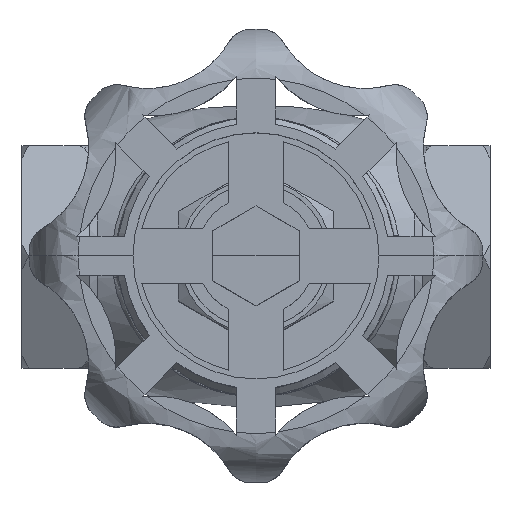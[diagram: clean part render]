
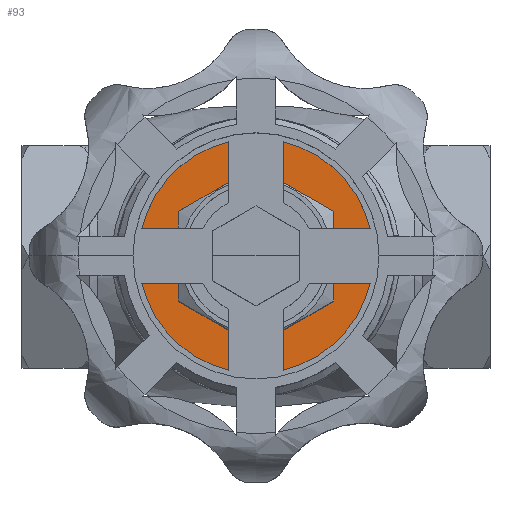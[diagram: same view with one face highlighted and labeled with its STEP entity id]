
A CAD part, top view. The second image highlights one B-rep face of the part: STEP entity #93.
In plain terms, the highlighted planar face has unit normal (0, 0, 1).
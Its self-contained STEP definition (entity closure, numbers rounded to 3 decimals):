
#93=ADVANCED_FACE('',(#809,#810),#808,.T.);
#808=PLANE('',#3105);
#809=FACE_OUTER_BOUND('',#3106,.T.);
#810=FACE_BOUND('',#3107,.T.);
#3102=CARTESIAN_POINT('',(-22.732,-36.344,33.007));
#3103=DIRECTION('',(0.,0.,1.));
#3104=DIRECTION('',(1.,0.,0.));
#3105=AXIS2_PLACEMENT_3D('',#3102,#3103,#3104);
#3106=EDGE_LOOP('',(#5753,#5754));
#3107=EDGE_LOOP('',(#5755,#5756,#5757,#5758,#5759,#5760,#5761,#5762,#5763,#5764,#5765,#5766));
#5753=ORIENTED_EDGE('',*,*,#7093,.F.);
#5754=ORIENTED_EDGE('',*,*,#7094,.F.);
#5755=ORIENTED_EDGE('',*,*,#7079,.T.);
#5756=ORIENTED_EDGE('',*,*,#7095,.F.);
#5757=ORIENTED_EDGE('',*,*,#7085,.T.);
#5758=ORIENTED_EDGE('',*,*,#7096,.F.);
#5759=ORIENTED_EDGE('',*,*,#7097,.T.);
#5760=ORIENTED_EDGE('',*,*,#7098,.F.);
#5761=ORIENTED_EDGE('',*,*,#7099,.T.);
#5762=ORIENTED_EDGE('',*,*,#7100,.F.);
#5763=ORIENTED_EDGE('',*,*,#7101,.T.);
#5764=ORIENTED_EDGE('',*,*,#7102,.F.);
#5765=ORIENTED_EDGE('',*,*,#7089,.T.);
#5766=ORIENTED_EDGE('',*,*,#7103,.F.);
#7079=EDGE_CURVE('',#8968,#8960,#8969,.T.);
#7085=EDGE_CURVE('',#8989,#9003,#9010,.T.);
#7089=EDGE_CURVE('',#9017,#9031,#9038,.T.);
#7093=EDGE_CURVE('',#9064,#9065,#9066,.T.);
#7094=EDGE_CURVE('',#9065,#9064,#9072,.T.);
#7095=EDGE_CURVE('',#8989,#8960,#9078,.T.);
#7096=EDGE_CURVE('',#9084,#9003,#9085,.T.);
#7097=EDGE_CURVE('',#9084,#9091,#9092,.T.);
#7098=EDGE_CURVE('',#9098,#9091,#9099,.T.);
#7099=EDGE_CURVE('',#9098,#9105,#9106,.T.);
#7100=EDGE_CURVE('',#9112,#9105,#9113,.T.);
#7101=EDGE_CURVE('',#9112,#9119,#9120,.T.);
#7102=EDGE_CURVE('',#9017,#9119,#9126,.T.);
#7103=EDGE_CURVE('',#8968,#9031,#9132,.T.);
#8960=VERTEX_POINT('',#13415);
#8968=VERTEX_POINT('',#13420);
#8969=CIRCLE('',#13424,12.424);
#8989=VERTEX_POINT('',#13434);
#9003=VERTEX_POINT('',#13443);
#9010=CIRCLE('',#13450,12.424);
#9017=VERTEX_POINT('',#13452);
#9031=VERTEX_POINT('',#13461);
#9038=CIRCLE('',#13468,12.424);
#9064=VERTEX_POINT('',#13487);
#9065=VERTEX_POINT('',#13488);
#9066=CIRCLE('',#13492,17.486);
#9072=CIRCLE('',#13496,17.486);
#9078=LINE('',#13497,#13498);
#9084=VERTEX_POINT('',#13500);
#9085=LINE('',#13501,#13502);
#9091=VERTEX_POINT('',#13504);
#9092=CIRCLE('',#13508,12.424);
#9098=VERTEX_POINT('',#13509);
#9099=LINE('',#13510,#13511);
#9105=VERTEX_POINT('',#13513);
#9106=CIRCLE('',#13517,12.424);
#9112=VERTEX_POINT('',#13518);
#9113=LINE('',#13519,#13520);
#9119=VERTEX_POINT('',#13522);
#9120=CIRCLE('',#13526,12.424);
#9126=LINE('',#13527,#13528);
#9132=LINE('',#13530,#13531);
#13415=CARTESIAN_POINT('',(10.736,-6.253,33.007));
#13420=CARTESIAN_POINT('',(10.783,-6.171,33.007));
#13421=CARTESIAN_POINT('',(0.,0.,33.007));
#13422=DIRECTION('',(0.,0.,-1.));
#13423=DIRECTION('',(1.,0.,0.));
#13424=AXIS2_PLACEMENT_3D('',#13421,#13422,#13423);
#13434=CARTESIAN_POINT('',(0.047,-12.424,33.007));
#13443=CARTESIAN_POINT('',(-0.047,-12.424,33.007));
#13447=CARTESIAN_POINT('',(0.,0.,33.007));
#13448=DIRECTION('',(0.,0.,-1.));
#13449=DIRECTION('',(1.,0.,0.));
#13450=AXIS2_PLACEMENT_3D('',#13447,#13448,#13449);
#13452=CARTESIAN_POINT('',(10.736,6.253,33.007));
#13461=CARTESIAN_POINT('',(10.783,6.171,33.007));
#13465=CARTESIAN_POINT('',(0.,0.,33.007));
#13466=DIRECTION('',(0.,0.,-1.));
#13467=DIRECTION('',(1.,0.,0.));
#13468=AXIS2_PLACEMENT_3D('',#13465,#13466,#13467);
#13487=CARTESIAN_POINT('',(17.486,0.,33.007));
#13488=CARTESIAN_POINT('',(-17.486,0.,33.007));
#13489=CARTESIAN_POINT('',(0.,0.,33.007));
#13490=DIRECTION('',(0.,0.,-1.));
#13491=DIRECTION('',(-1.,0.,0.));
#13492=AXIS2_PLACEMENT_3D('',#13489,#13490,#13491);
#13493=CARTESIAN_POINT('',(0.,0.,33.007));
#13494=DIRECTION('',(0.,0.,-1.));
#13495=DIRECTION('',(-1.,0.,0.));
#13496=AXIS2_PLACEMENT_3D('',#13493,#13494,#13495);
#13497=CARTESIAN_POINT('',(0.047,-12.424,33.007));
#13498=VECTOR('',#13499,12.342);
#13499=DIRECTION('',(0.866,0.5,0.));
#13500=CARTESIAN_POINT('',(-10.736,-6.253,33.007));
#13501=CARTESIAN_POINT('',(-10.736,-6.253,33.007));
#13502=VECTOR('',#13503,12.342);
#13503=DIRECTION('',(0.866,-0.5,0.));
#13504=CARTESIAN_POINT('',(-10.783,-6.171,33.007));
#13505=CARTESIAN_POINT('',(0.,0.,33.007));
#13506=DIRECTION('',(0.,0.,-1.));
#13507=DIRECTION('',(1.,0.,0.));
#13508=AXIS2_PLACEMENT_3D('',#13505,#13506,#13507);
#13509=CARTESIAN_POINT('',(-10.783,6.171,33.007));
#13510=CARTESIAN_POINT('',(-10.783,6.171,33.007));
#13511=VECTOR('',#13512,12.342);
#13512=DIRECTION('',(0.,-1.,0.));
#13513=CARTESIAN_POINT('',(-10.736,6.253,33.007));
#13514=CARTESIAN_POINT('',(0.,0.,33.007));
#13515=DIRECTION('',(0.,0.,-1.));
#13516=DIRECTION('',(1.,0.,0.));
#13517=AXIS2_PLACEMENT_3D('',#13514,#13515,#13516);
#13518=CARTESIAN_POINT('',(-0.047,12.424,33.007));
#13519=CARTESIAN_POINT('',(-0.047,12.424,33.007));
#13520=VECTOR('',#13521,12.342);
#13521=DIRECTION('',(-0.866,-0.5,0.));
#13522=CARTESIAN_POINT('',(0.047,12.424,33.007));
#13523=CARTESIAN_POINT('',(0.,0.,33.007));
#13524=DIRECTION('',(0.,0.,-1.));
#13525=DIRECTION('',(1.,0.,0.));
#13526=AXIS2_PLACEMENT_3D('',#13523,#13524,#13525);
#13527=CARTESIAN_POINT('',(10.736,6.253,33.007));
#13528=VECTOR('',#13529,12.342);
#13529=DIRECTION('',(-0.866,0.5,0.));
#13530=CARTESIAN_POINT('',(10.783,-6.171,33.007));
#13531=VECTOR('',#13532,12.342);
#13532=DIRECTION('',(0.,1.,0.));
